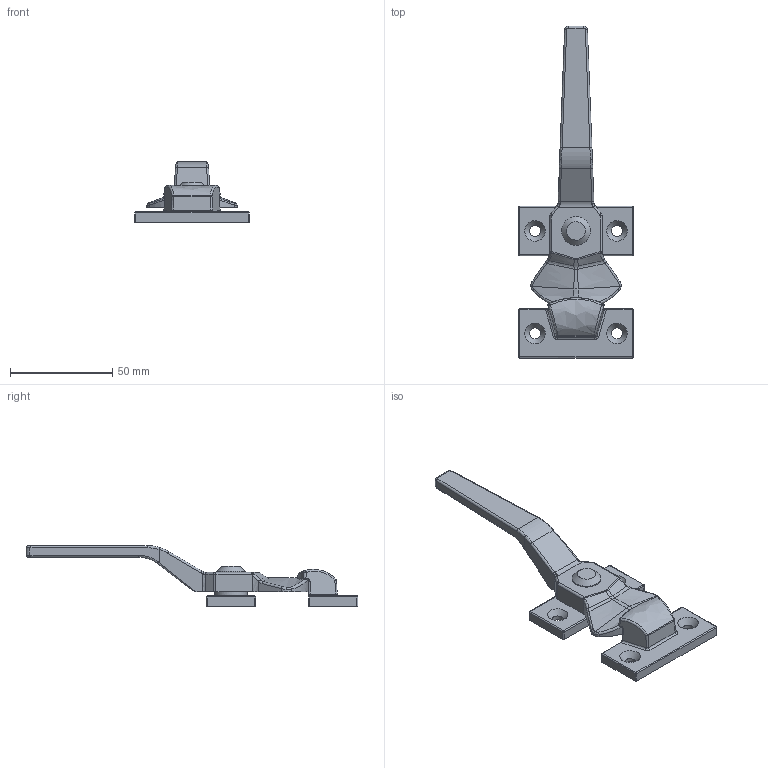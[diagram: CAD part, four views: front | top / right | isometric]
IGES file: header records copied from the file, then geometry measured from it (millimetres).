
Global section: file name: DR_D-1110; native system: Autodesk Inventor 2015; preprocessor: unknown; author: Administrator; date: 20170725.082654; units: millimetre
Bounding box: 56 x 162 x 29.5 mm (x, y, z)
Volume: 33664.4 mm3; surface area: 17271.9 mm2
Topology: 4 solids, 4 shells, 242 faces, 572 edges, 341 vertices
Faces by surface type: bspline 242
